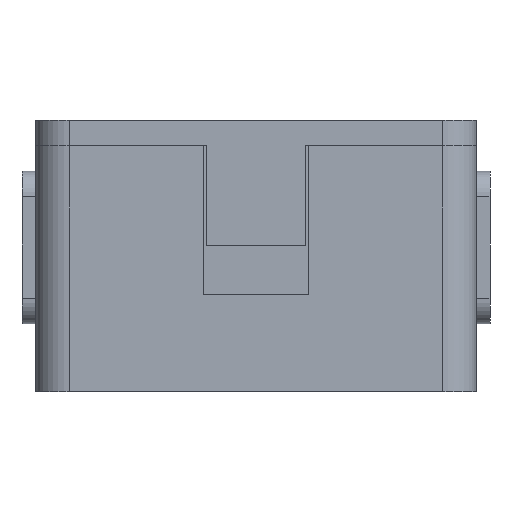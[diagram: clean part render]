
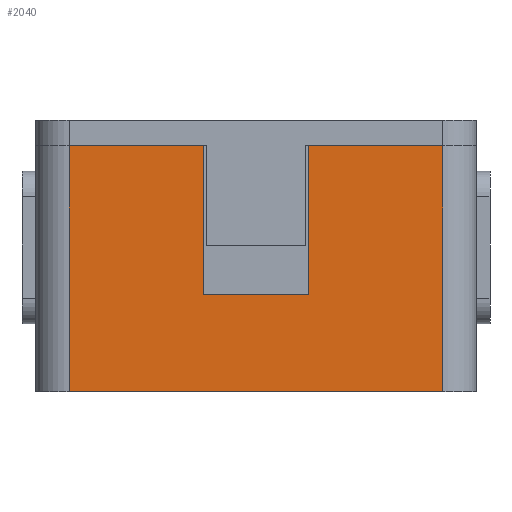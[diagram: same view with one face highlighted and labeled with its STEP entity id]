
A CAD part, left-side view. The second image highlights one B-rep face of the part: STEP entity #2040.
In plain terms, the highlighted planar face has unit normal (-1, 0, 0).
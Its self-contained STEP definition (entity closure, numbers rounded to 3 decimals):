
#86 = PLANE('',#87);
#87 = AXIS2_PLACEMENT_3D('',#88,#89,#90);
#88 = CARTESIAN_POINT('',(0.,0.,0.));
#89 = DIRECTION('',(0.,0.,1.));
#90 = DIRECTION('',(1.,0.,-0.));
#114 = CYLINDRICAL_SURFACE('',#115,4.);
#115 = AXIS2_PLACEMENT_3D('',#116,#117,#118);
#116 = CARTESIAN_POINT('',(-28.5,-22.,0.));
#117 = DIRECTION('',(0.,0.,1.));
#118 = DIRECTION('',(0.,-1.,0.));
#142 = PLANE('',#143);
#143 = AXIS2_PLACEMENT_3D('',#144,#145,#146);
#144 = CARTESIAN_POINT('',(0.,0.,29.));
#145 = DIRECTION('',(0.,0.,1.));
#146 = DIRECTION('',(1.,0.,-0.));
#517 = VERTEX_POINT('',#518);
#518 = CARTESIAN_POINT('',(-32.5,22.,0.));
#533 = CYLINDRICAL_SURFACE('',#534,4.);
#534 = AXIS2_PLACEMENT_3D('',#535,#536,#537);
#535 = CARTESIAN_POINT('',(-28.5,22.,0.));
#536 = DIRECTION('',(0.,0.,1.));
#537 = DIRECTION('',(-0.,1.,0.));
#545 = EDGE_CURVE('',#517,#546,#548,.T.);
#546 = VERTEX_POINT('',#547);
#547 = CARTESIAN_POINT('',(-32.5,-22.,0.));
#548 = SURFACE_CURVE('',#549,(#553,#560),.PCURVE_S1.);
#549 = LINE('',#550,#551);
#550 = CARTESIAN_POINT('',(-32.5,26.,0.));
#551 = VECTOR('',#552,1.);
#552 = DIRECTION('',(0.,-1.,0.));
#553 = PCURVE('',#86,#554);
#554 = DEFINITIONAL_REPRESENTATION('',(#555),#559);
#555 = LINE('',#556,#557);
#556 = CARTESIAN_POINT('',(-32.5,26.));
#557 = VECTOR('',#558,1.);
#558 = DIRECTION('',(0.,-1.));
#559 = ( GEOMETRIC_REPRESENTATION_CONTEXT(2) 
PARAMETRIC_REPRESENTATION_CONTEXT() REPRESENTATION_CONTEXT('2D SPACE',''
  ) );
#560 = PCURVE('',#561,#566);
#561 = PLANE('',#562);
#562 = AXIS2_PLACEMENT_3D('',#563,#564,#565);
#563 = CARTESIAN_POINT('',(-32.5,26.,0.));
#564 = DIRECTION('',(1.,0.,-0.));
#565 = DIRECTION('',(0.,-1.,0.));
#566 = DEFINITIONAL_REPRESENTATION('',(#567),#571);
#567 = LINE('',#568,#569);
#568 = CARTESIAN_POINT('',(0.,0.));
#569 = VECTOR('',#570,1.);
#570 = DIRECTION('',(1.,0.));
#571 = ( GEOMETRIC_REPRESENTATION_CONTEXT(2) 
PARAMETRIC_REPRESENTATION_CONTEXT() REPRESENTATION_CONTEXT('2D SPACE',''
  ) );
#603 = EDGE_CURVE('',#546,#604,#606,.T.);
#604 = VERTEX_POINT('',#605);
#605 = CARTESIAN_POINT('',(-32.5,-22.,29.));
#606 = SURFACE_CURVE('',#607,(#611,#618),.PCURVE_S1.);
#607 = LINE('',#608,#609);
#608 = CARTESIAN_POINT('',(-32.5,-22.,0.));
#609 = VECTOR('',#610,1.);
#610 = DIRECTION('',(0.,0.,1.));
#611 = PCURVE('',#114,#612);
#612 = DEFINITIONAL_REPRESENTATION('',(#613),#617);
#613 = LINE('',#614,#615);
#614 = CARTESIAN_POINT('',(-1.571,0.));
#615 = VECTOR('',#616,1.);
#616 = DIRECTION('',(-0.,1.));
#617 = ( GEOMETRIC_REPRESENTATION_CONTEXT(2) 
PARAMETRIC_REPRESENTATION_CONTEXT() REPRESENTATION_CONTEXT('2D SPACE',''
  ) );
#618 = PCURVE('',#561,#619);
#619 = DEFINITIONAL_REPRESENTATION('',(#620),#624);
#620 = LINE('',#621,#622);
#621 = CARTESIAN_POINT('',(48.,0.));
#622 = VECTOR('',#623,1.);
#623 = DIRECTION('',(0.,-1.));
#624 = ( GEOMETRIC_REPRESENTATION_CONTEXT(2) 
PARAMETRIC_REPRESENTATION_CONTEXT() REPRESENTATION_CONTEXT('2D SPACE',''
  ) );
#780 = VERTEX_POINT('',#781);
#781 = CARTESIAN_POINT('',(-32.5,22.,29.));
#803 = EDGE_CURVE('',#780,#804,#806,.T.);
#804 = VERTEX_POINT('',#805);
#805 = CARTESIAN_POINT('',(-32.5,6.2,29.));
#806 = SURFACE_CURVE('',#807,(#811,#818),.PCURVE_S1.);
#807 = LINE('',#808,#809);
#808 = CARTESIAN_POINT('',(-32.5,26.,29.));
#809 = VECTOR('',#810,1.);
#810 = DIRECTION('',(0.,-1.,0.));
#811 = PCURVE('',#142,#812);
#812 = DEFINITIONAL_REPRESENTATION('',(#813),#817);
#813 = LINE('',#814,#815);
#814 = CARTESIAN_POINT('',(-32.5,26.));
#815 = VECTOR('',#816,1.);
#816 = DIRECTION('',(0.,-1.));
#817 = ( GEOMETRIC_REPRESENTATION_CONTEXT(2) 
PARAMETRIC_REPRESENTATION_CONTEXT() REPRESENTATION_CONTEXT('2D SPACE',''
  ) );
#818 = PCURVE('',#561,#819);
#819 = DEFINITIONAL_REPRESENTATION('',(#820),#824);
#820 = LINE('',#821,#822);
#821 = CARTESIAN_POINT('',(0.,-29.));
#822 = VECTOR('',#823,1.);
#823 = DIRECTION('',(1.,0.));
#824 = ( GEOMETRIC_REPRESENTATION_CONTEXT(2) 
PARAMETRIC_REPRESENTATION_CONTEXT() REPRESENTATION_CONTEXT('2D SPACE',''
  ) );
#842 = PLANE('',#843);
#843 = AXIS2_PLACEMENT_3D('',#844,#845,#846);
#844 = CARTESIAN_POINT('',(-35.5,6.2,11.4));
#845 = DIRECTION('',(0.,1.,0.));
#846 = DIRECTION('',(0.,0.,1.));
#1203 = VERTEX_POINT('',#1204);
#1204 = CARTESIAN_POINT('',(-32.5,-6.2,29.));
#1218 = PLANE('',#1219);
#1219 = AXIS2_PLACEMENT_3D('',#1220,#1221,#1222);
#1220 = CARTESIAN_POINT('',(-35.5,-6.2,11.4));
#1221 = DIRECTION('',(0.,1.,0.));
#1222 = DIRECTION('',(0.,0.,1.));
#1229 = EDGE_CURVE('',#1203,#604,#1230,.T.);
#1230 = SURFACE_CURVE('',#1231,(#1235,#1242),.PCURVE_S1.);
#1231 = LINE('',#1232,#1233);
#1232 = CARTESIAN_POINT('',(-32.5,26.,29.));
#1233 = VECTOR('',#1234,1.);
#1234 = DIRECTION('',(0.,-1.,0.));
#1235 = PCURVE('',#142,#1236);
#1236 = DEFINITIONAL_REPRESENTATION('',(#1237),#1241);
#1237 = LINE('',#1238,#1239);
#1238 = CARTESIAN_POINT('',(-32.5,26.));
#1239 = VECTOR('',#1240,1.);
#1240 = DIRECTION('',(0.,-1.));
#1241 = ( GEOMETRIC_REPRESENTATION_CONTEXT(2) 
PARAMETRIC_REPRESENTATION_CONTEXT() REPRESENTATION_CONTEXT('2D SPACE',''
  ) );
#1242 = PCURVE('',#561,#1243);
#1243 = DEFINITIONAL_REPRESENTATION('',(#1244),#1248);
#1244 = LINE('',#1245,#1246);
#1245 = CARTESIAN_POINT('',(0.,-29.));
#1246 = VECTOR('',#1247,1.);
#1247 = DIRECTION('',(1.,0.));
#1248 = ( GEOMETRIC_REPRESENTATION_CONTEXT(2) 
PARAMETRIC_REPRESENTATION_CONTEXT() REPRESENTATION_CONTEXT('2D SPACE',''
  ) );
#2040 = ADVANCED_FACE('',(#2041),#561,.F.);
#2041 = FACE_BOUND('',#2042,.F.);
#2042 = EDGE_LOOP('',(#2043,#2044,#2065,#2066,#2087,#2113,#2132,#2133));
#2043 = ORIENTED_EDGE('',*,*,#545,.F.);
#2044 = ORIENTED_EDGE('',*,*,#2045,.T.);
#2045 = EDGE_CURVE('',#517,#780,#2046,.T.);
#2046 = SURFACE_CURVE('',#2047,(#2051,#2058),.PCURVE_S1.);
#2047 = LINE('',#2048,#2049);
#2048 = CARTESIAN_POINT('',(-32.5,22.,0.));
#2049 = VECTOR('',#2050,1.);
#2050 = DIRECTION('',(0.,0.,1.));
#2051 = PCURVE('',#561,#2052);
#2052 = DEFINITIONAL_REPRESENTATION('',(#2053),#2057);
#2053 = LINE('',#2054,#2055);
#2054 = CARTESIAN_POINT('',(4.,0.));
#2055 = VECTOR('',#2056,1.);
#2056 = DIRECTION('',(0.,-1.));
#2057 = ( GEOMETRIC_REPRESENTATION_CONTEXT(2) 
PARAMETRIC_REPRESENTATION_CONTEXT() REPRESENTATION_CONTEXT('2D SPACE',''
  ) );
#2058 = PCURVE('',#533,#2059);
#2059 = DEFINITIONAL_REPRESENTATION('',(#2060),#2064);
#2060 = LINE('',#2061,#2062);
#2061 = CARTESIAN_POINT('',(1.571,0.));
#2062 = VECTOR('',#2063,1.);
#2063 = DIRECTION('',(0.,1.));
#2064 = ( GEOMETRIC_REPRESENTATION_CONTEXT(2) 
PARAMETRIC_REPRESENTATION_CONTEXT() REPRESENTATION_CONTEXT('2D SPACE',''
  ) );
#2065 = ORIENTED_EDGE('',*,*,#803,.T.);
#2066 = ORIENTED_EDGE('',*,*,#2067,.F.);
#2067 = EDGE_CURVE('',#2068,#804,#2070,.T.);
#2068 = VERTEX_POINT('',#2069);
#2069 = CARTESIAN_POINT('',(-32.5,6.2,11.4));
#2070 = SURFACE_CURVE('',#2071,(#2075,#2081),.PCURVE_S1.);
#2071 = LINE('',#2072,#2073);
#2072 = CARTESIAN_POINT('',(-32.5,6.2,5.7));
#2073 = VECTOR('',#2074,1.);
#2074 = DIRECTION('',(0.,-0.,1.));
#2075 = PCURVE('',#561,#2076);
#2076 = DEFINITIONAL_REPRESENTATION('',(#2077),#2080);
#2077 = B_SPLINE_CURVE_WITH_KNOTS('',1,(#2078,#2079),.UNSPECIFIED.,.F.,
  .F.,(2,2),(5.7,23.3),.PIECEWISE_BEZIER_KNOTS.);
#2078 = CARTESIAN_POINT('',(19.8,-11.4));
#2079 = CARTESIAN_POINT('',(19.8,-29.));
#2080 = ( GEOMETRIC_REPRESENTATION_CONTEXT(2) 
PARAMETRIC_REPRESENTATION_CONTEXT() REPRESENTATION_CONTEXT('2D SPACE',''
  ) );
#2081 = PCURVE('',#842,#2082);
#2082 = DEFINITIONAL_REPRESENTATION('',(#2083),#2086);
#2083 = B_SPLINE_CURVE_WITH_KNOTS('',1,(#2084,#2085),.UNSPECIFIED.,.F.,
  .F.,(2,2),(5.7,23.3),.PIECEWISE_BEZIER_KNOTS.);
#2084 = CARTESIAN_POINT('',(0.,3.));
#2085 = CARTESIAN_POINT('',(17.6,3.));
#2086 = ( GEOMETRIC_REPRESENTATION_CONTEXT(2) 
PARAMETRIC_REPRESENTATION_CONTEXT() REPRESENTATION_CONTEXT('2D SPACE',''
  ) );
#2087 = ORIENTED_EDGE('',*,*,#2088,.T.);
#2088 = EDGE_CURVE('',#2068,#2089,#2091,.T.);
#2089 = VERTEX_POINT('',#2090);
#2090 = CARTESIAN_POINT('',(-32.5,-6.2,11.4));
#2091 = SURFACE_CURVE('',#2092,(#2096,#2102),.PCURVE_S1.);
#2092 = LINE('',#2093,#2094);
#2093 = CARTESIAN_POINT('',(-32.5,9.9,11.4));
#2094 = VECTOR('',#2095,1.);
#2095 = DIRECTION('',(0.,-1.,0.));
#2096 = PCURVE('',#561,#2097);
#2097 = DEFINITIONAL_REPRESENTATION('',(#2098),#2101);
#2098 = B_SPLINE_CURVE_WITH_KNOTS('',1,(#2099,#2100),.UNSPECIFIED.,.F.,
  .F.,(2,2),(3.7,16.1),.PIECEWISE_BEZIER_KNOTS.);
#2099 = CARTESIAN_POINT('',(19.8,-11.4));
#2100 = CARTESIAN_POINT('',(32.2,-11.4));
#2101 = ( GEOMETRIC_REPRESENTATION_CONTEXT(2) 
PARAMETRIC_REPRESENTATION_CONTEXT() REPRESENTATION_CONTEXT('2D SPACE',''
  ) );
#2102 = PCURVE('',#2103,#2108);
#2103 = PLANE('',#2104);
#2104 = AXIS2_PLACEMENT_3D('',#2105,#2106,#2107);
#2105 = CARTESIAN_POINT('',(-35.5,-6.2,11.4));
#2106 = DIRECTION('',(0.,0.,1.));
#2107 = DIRECTION('',(1.,0.,0.));
#2108 = DEFINITIONAL_REPRESENTATION('',(#2109),#2112);
#2109 = B_SPLINE_CURVE_WITH_KNOTS('',1,(#2110,#2111),.UNSPECIFIED.,.F.,
  .F.,(2,2),(3.7,16.1),.PIECEWISE_BEZIER_KNOTS.);
#2110 = CARTESIAN_POINT('',(3.,12.4));
#2111 = CARTESIAN_POINT('',(3.,0.));
#2112 = ( GEOMETRIC_REPRESENTATION_CONTEXT(2) 
PARAMETRIC_REPRESENTATION_CONTEXT() REPRESENTATION_CONTEXT('2D SPACE',''
  ) );
#2113 = ORIENTED_EDGE('',*,*,#2114,.T.);
#2114 = EDGE_CURVE('',#2089,#1203,#2115,.T.);
#2115 = SURFACE_CURVE('',#2116,(#2120,#2126),.PCURVE_S1.);
#2116 = LINE('',#2117,#2118);
#2117 = CARTESIAN_POINT('',(-32.5,-6.2,5.7));
#2118 = VECTOR('',#2119,1.);
#2119 = DIRECTION('',(0.,-0.,1.));
#2120 = PCURVE('',#561,#2121);
#2121 = DEFINITIONAL_REPRESENTATION('',(#2122),#2125);
#2122 = B_SPLINE_CURVE_WITH_KNOTS('',1,(#2123,#2124),.UNSPECIFIED.,.F.,
  .F.,(2,2),(5.7,23.3),.PIECEWISE_BEZIER_KNOTS.);
#2123 = CARTESIAN_POINT('',(32.2,-11.4));
#2124 = CARTESIAN_POINT('',(32.2,-29.));
#2125 = ( GEOMETRIC_REPRESENTATION_CONTEXT(2) 
PARAMETRIC_REPRESENTATION_CONTEXT() REPRESENTATION_CONTEXT('2D SPACE',''
  ) );
#2126 = PCURVE('',#1218,#2127);
#2127 = DEFINITIONAL_REPRESENTATION('',(#2128),#2131);
#2128 = B_SPLINE_CURVE_WITH_KNOTS('',1,(#2129,#2130),.UNSPECIFIED.,.F.,
  .F.,(2,2),(5.7,23.3),.PIECEWISE_BEZIER_KNOTS.);
#2129 = CARTESIAN_POINT('',(0.,3.));
#2130 = CARTESIAN_POINT('',(17.6,3.));
#2131 = ( GEOMETRIC_REPRESENTATION_CONTEXT(2) 
PARAMETRIC_REPRESENTATION_CONTEXT() REPRESENTATION_CONTEXT('2D SPACE',''
  ) );
#2132 = ORIENTED_EDGE('',*,*,#1229,.T.);
#2133 = ORIENTED_EDGE('',*,*,#603,.F.);
